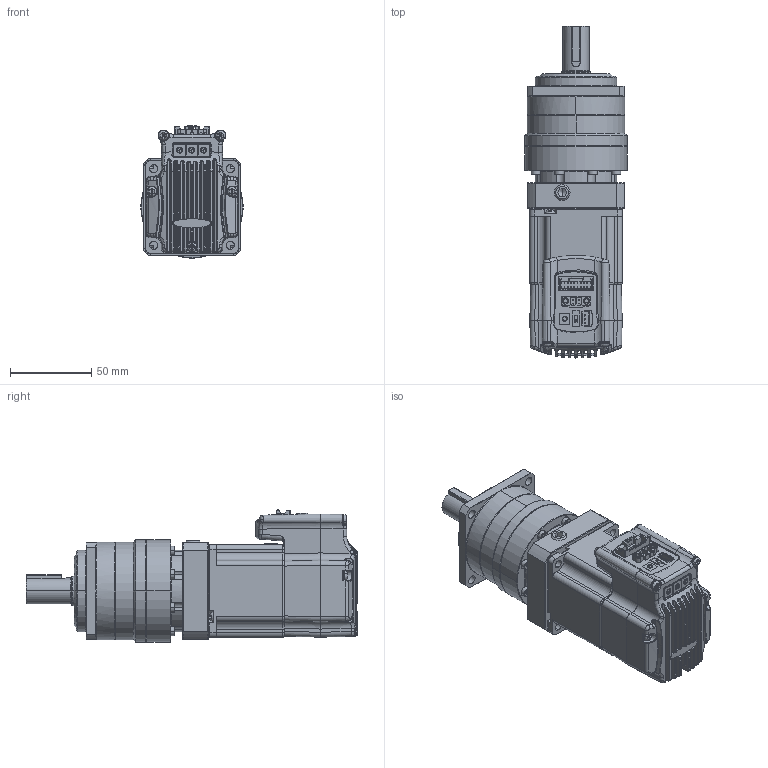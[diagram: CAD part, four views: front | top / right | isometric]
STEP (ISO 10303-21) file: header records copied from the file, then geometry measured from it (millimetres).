
FILE_DESCRIPTION (( 'STEP AP203' ), '1' );
FILE_NAME ('130416 Ezi-SERVO PG-BT-56S-PN3~10.STEP', '2013-04-17T01:17:25', ( '' ), ( '' ), 'SwSTEP 2.0', 'SolidWorks 2012', '' );
FILE_SCHEMA (( 'CONFIG_CONTROL_DESIGN' ));
Products named in the file (40): 130416 Ezi-SERVO PG-BT-56S-PN3~10; ST56 1ST; 38_5; 37_9; 36_9; 35_9; 34_9; 33_9; 32_9; 31_9; 30_9; 29_9; 28_9; 27_9; 26_9; 25_9; 24_9; 23_9; 22_9; 21_9; 20_9; 19_9; 18_9; 17_9; 16_9; 15_9; 14_9; 13_9; 12_9; 11_9; 10_9; 9_9; 8_9; 7_9; 6_9; 5_9; 4_9; 3_9; 2_9; 1_9
Assembly tree (39 placements, depth 2):
  130416 Ezi-SERVO PG-BT-56S-PN3~10
    1_9
    2_9
    3_9
    4_9
    5_9
    6_9
    7_9
    8_9
    9_9
    10_9
    11_9
    12_9
    13_9
    14_9
    15_9
    16_9
    17_9
    18_9
    19_9
    20_9
    21_9
    22_9
    23_9
    24_9
    25_9
    26_9
    27_9
    28_9
    29_9
    30_9
    31_9
    32_9
    33_9
    34_9
    35_9
    36_9
    37_9
    38_5
    ST56 1ST
Bounding box: 63 x 204.1 x 81.43 mm (x, y, z)
Volume: 433351.5 mm3; surface area: 121535.1 mm2
Topology: 37 solids, 39 shells, 3613 faces, 9047 edges, 5531 vertices
Faces by surface type: plane 1575, cylinder 1124, bspline 669, cone 191, torus 54
Entity records: 169545 total; most frequent: CARTESIAN_POINT 87781, ORIENTED_EDGE 17820, DIRECTION 13112, EDGE_CURVE 8932, VERTEX_POINT 5531, AXIS2_PLACEMENT_3D 4408, VECTOR 4296, LINE 4296
